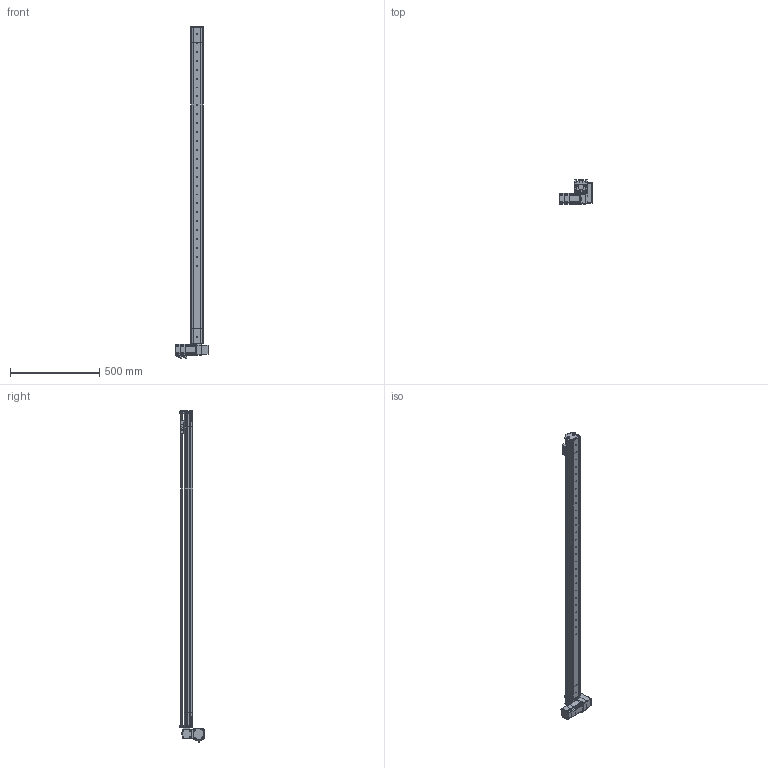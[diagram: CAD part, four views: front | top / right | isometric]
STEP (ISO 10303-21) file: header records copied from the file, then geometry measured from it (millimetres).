
FILE_DESCRIPTION (( 'STEP AP214' ), '1' );
FILE_NAME ('S07 TBN LU S1600.STEP', '2010-06-29T12:14:26', ( 'Conseil Régional Haute-Normandie' ), ( 'Conseil Régional Haute-Normandie' ), 'SwSTEP 2.0', 'SolidWorks 2010', '' );
FILE_SCHEMA (( 'AUTOMOTIVE_DESIGN' ));
Length unit declared in the file: millimetre
Products named in the file (41): Axe 60BLDC_Default; vis M5 L16_Default; Chariot; Conecteur 60BLDC_Default; guide; VisM3_Default; Conecteur2 60BLDC_Default; CHariot_Default; couroie tail_Default; Cvis M5 L30_Default; T皻e de poulie_Default; S07 TB tail (78)_Default; Vis M5 L16-2_Default; vis M5 L12_Default; Poulie_Default; corp tail TB_Default; couvercle tail TB; plaque de bout_Default; Corp S07 course 1600_Default; Course C L1600_Default; S07 TBN LU S1600; S07 LU(146)_Default; couvercle S07 course 1600 ; Couroie  course 1600_Default; couvercle moteur S07 TB; plaque de bout LU_Default; corp moteur TB(146)_Default; cache t皻e_Default; Poulie head_Default; cache t皻e axe_Default; Couroie t皻e_Default; Pièce5^S07 LU(146); vis M5 L5_Default; P1_Default; GMB 60 90 310_Default; renvoi LU_Default; Plaque racord_Default; P4_Default; P3 90A_Default; P2 90A_Default
Assembly tree (80 placements, depth 4):
  S07 TBN LU S1600
    CHariot_Default
      guide
      vis M5 L16_Default  x2
      Chariot
    S07 LU(146)_Default
      Vis M5 L16-2_Default  x8
      vis M5 L5_Default  x6
      Poulie head_Default
      GMB 60 90 310_Default
        VisM3_Default  x12
        Conecteur 60BLDC_Default
        P3 90A_Default
        P2 90A_Default
        Conecteur2 60BLDC_Default
        Axe 60BLDC_Default
        P4_Default
        P1_Default
      vis M5 L12_Default  x6
      Couroie t皻e_Default
      corp moteur TB(146)_Default
      renvoi LU_Default
      Cvis M5 L30_Default  x2
      cache t皻e_Default  x2
      plaque de bout LU_Default
      Plaque racord_Default
      cache t皻e axe_Default
      couvercle moteur S07 TB
    Course C L1600_Default
      couvercle S07 course 1600 
      Couroie  course 1600_Default
      Corp S07 course 1600_Default
    S07 TB tail (78)_Default
      plaque de bout_Default
      corp tail TB_Default
      vis M5 L12_Default  x10
      couvercle tail TB
      Poulie_Default
        Poulie_Default
        T皻e de poulie_Default
      couroie tail_Default
  Pièce5^S07 LU(146)
Bounding box: 190.2 x 134.7 x 1862 mm (x, y, z)
Volume: 3580432.5 mm3; surface area: 1573082.9 mm2
Topology: 102 solids, 102 shells, 3950 faces, 9834 edges, 6353 vertices
Faces by surface type: plane 2239, cylinder 781, bspline 677, cone 125, torus 124, sphere 4
Entity records: 168029 total; most frequent: CARTESIAN_POINT 75331, ORIENTED_EDGE 15580, DIRECTION 12459, EDGE_CURVE 7790, VERTEX_POINT 5141, LINE 5065, VECTOR 5065, AXIS2_PLACEMENT_3D 3697
